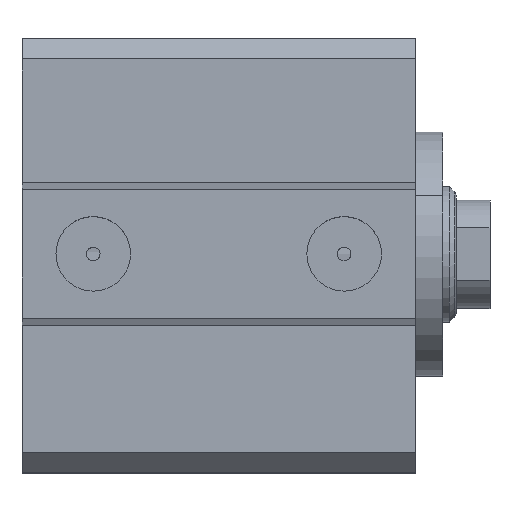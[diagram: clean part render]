
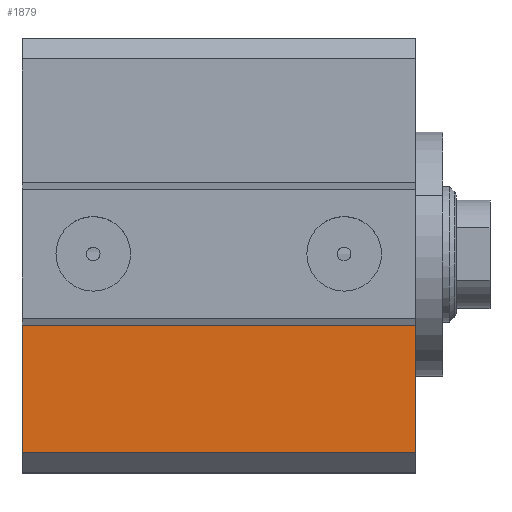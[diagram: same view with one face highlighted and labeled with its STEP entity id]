
A CAD part, top view. The second image highlights one B-rep face of the part: STEP entity #1879.
In plain terms, the highlighted planar face has unit normal (0, 0, 1).
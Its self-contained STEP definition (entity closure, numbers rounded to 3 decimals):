
#996=CARTESIAN_POINT('Vertex',(0.,-29.25,31.75)) ;
#999=CARTESIAN_POINT('Line Origine',(0.,-19.875,31.75)) ;
#1003=CARTESIAN_POINT('Vertex',(0.,-10.5,31.75)) ;
#1217=CARTESIAN_POINT('Vertex',(58.,-10.5,31.75)) ;
#1220=CARTESIAN_POINT('Line Origine',(58.,-19.875,31.75)) ;
#1224=CARTESIAN_POINT('Vertex',(58.,-29.25,31.75)) ;
#1764=CARTESIAN_POINT('Axis2P3D Location',(0.,10.5,31.75)) ;
#1856=CARTESIAN_POINT('Line Origine',(29.,-10.5,31.75)) ;
#1868=CARTESIAN_POINT('Line Origine',(29.,-29.25,31.75)) ;
#1000=DIRECTION('Vector Direction',(0.,1.,0.)) ;
#1221=DIRECTION('Vector Direction',(0.,1.,0.)) ;
#1765=DIRECTION('Axis2P3D Direction',(0.,0.,-1.)) ;
#1766=DIRECTION('Axis2P3D XDirection',(0.,1.,0.)) ;
#1857=DIRECTION('Vector Direction',(1.,0.,0.)) ;
#1869=DIRECTION('Vector Direction',(1.,0.,0.)) ;
#1767=AXIS2_PLACEMENT_3D('Plane Axis2P3D',#1764,#1765,#1766) ;
#1874=ORIENTED_EDGE('',*,*,#1860,.F.) ;
#1875=ORIENTED_EDGE('',*,*,#1005,.T.) ;
#1876=ORIENTED_EDGE('',*,*,#1872,.T.) ;
#1877=ORIENTED_EDGE('',*,*,#1226,.F.) ;
#1001=VECTOR('Line Direction',#1000,1.) ;
#1222=VECTOR('Line Direction',#1221,1.) ;
#1858=VECTOR('Line Direction',#1857,1.) ;
#1870=VECTOR('Line Direction',#1869,1.) ;
#1879=ADVANCED_FACE('PartBody',(#1878),#1768,.F.) ;
#1005=EDGE_CURVE('',#1004,#997,#1002,.F.) ;
#1226=EDGE_CURVE('',#1218,#1225,#1223,.F.) ;
#1860=EDGE_CURVE('',#1004,#1218,#1859,.T.) ;
#1872=EDGE_CURVE('',#997,#1225,#1871,.T.) ;
#1873=EDGE_LOOP('',(#1874,#1875,#1876,#1877)) ;
#1878=FACE_OUTER_BOUND('',#1873,.T.) ;
#1002=LINE('Line',#999,#1001) ;
#1223=LINE('Line',#1220,#1222) ;
#1859=LINE('Line',#1856,#1858) ;
#1871=LINE('Line',#1868,#1870) ;
#1768=PLANE('',#1767) ;
#997=VERTEX_POINT('',#996) ;
#1004=VERTEX_POINT('',#1003) ;
#1218=VERTEX_POINT('',#1217) ;
#1225=VERTEX_POINT('',#1224) ;
